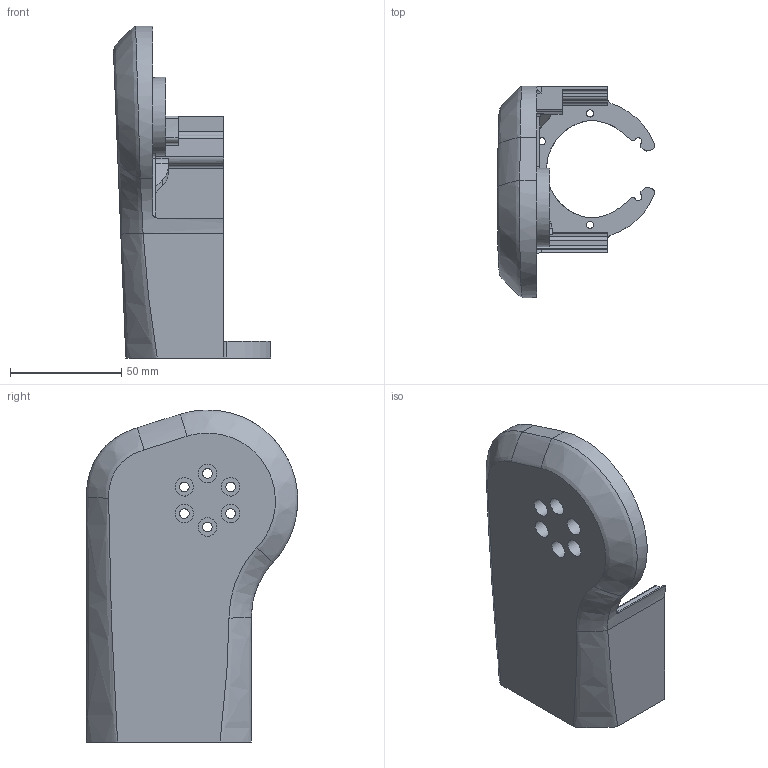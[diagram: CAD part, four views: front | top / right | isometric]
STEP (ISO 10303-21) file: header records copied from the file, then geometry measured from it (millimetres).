
FILE_DESCRIPTION(/* description */ ('STEP AP242 Edition 2','CAx-IF Rec.Pracs.---Representation and Presentation of Product Manufacturing Information (PMI)---4.0---2014-10-13','CAx-IF Rec.Pracs.---3D Tessellated Geometry---0.4---2014-09-14','2;1','CAx-IF Rec.Pracs.---User Defined Attributes---1.5---2016-08-15'),/* implementation_level */ '2;1');
FILE_NAME(/* name */ 'Assy_ForMFG - KC-C-401L_Up_Forearm_Drive',/* time_stamp */ '2026-05-15T19:56:23Z',/* author */ (''),/* organization */ (''),/* preprocessor_version */ 'ST-DEVELOPER v20',/* originating_system */ 'ONSHAPE BY PTC INC, 1.215',/* authorisation */ ' ');
FILE_SCHEMA (('AP242_MANAGED_MODEL_BASED_3D_ENGINEERING_MIM_LF { 1 0 10303 442 3 1 4 }'));
Length unit declared in the file: metre
Products named in the file (1): KC-C-401L_Up_Forearm_Drive
Bounding box: 70.57 x 94.82 x 148.99 mm (x, y, z)
Volume: 79516.2 mm3; surface area: 57431.7 mm2
Topology: 1 solids, 1 shells, 309 faces, 818 edges, 489 vertices
Faces by surface type: cylinder 113, bspline 106, plane 63, cone 14, sphere 8, torus 5
Full cylindrical faces by diameter (mm): 2.5 x4, 3 x2, 3.2 x4, 4 x3, 4.3 x6, 6.5 x2, 8.25 x6, 11.75 x1, 16 x1, 35.25 x1
Entity records: 16107 total; most frequent: CARTESIAN_POINT 9631, ORIENTED_EDGE 1428, DIRECTION 1118, EDGE_CURVE 714, VERTEX_POINT 471, AXIS2_PLACEMENT_3D 459, FACE_BOUND 393, EDGE_LOOP 384
